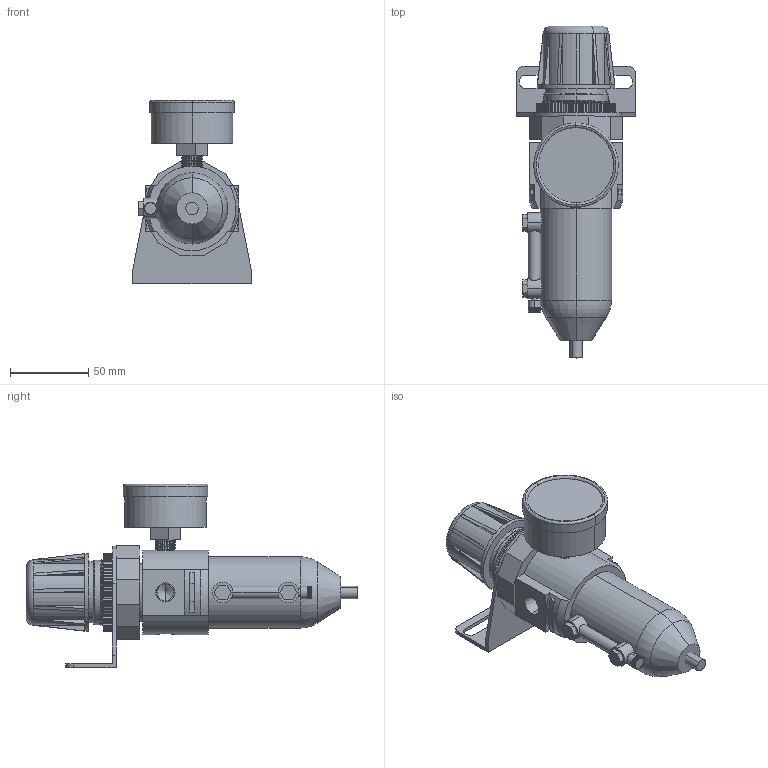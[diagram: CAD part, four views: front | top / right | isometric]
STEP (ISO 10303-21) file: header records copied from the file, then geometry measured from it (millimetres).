
FILE_DESCRIPTION (( 'STEP AP203' ), '1' );
FILE_NAME ('B011W-02#YGB#.STEP', '2016-01-14T18:09:49', ( '' ), ( '' ), 'SwSTEP 2.0', 'SolidWorks 2014', '' );
FILE_SCHEMA (( 'CONFIG_CONTROL_DESIGN' ));
Length unit declared in the file: millimetre
Products named in the file (16): D011W-6; 50-P-AD=1-4PT-2; KWSAR10Y57-1; B011W-1; D011W-5; R010-上半部; D011W-4; R010-4; R010-3; KWSAR10Y57; KWR10X51; 50-P-AD=1-4PT.SLDPRT; D011W-04-刻度計; B011W-02#YGB#; 50-P-AD=1-4PT-1; L606-W-06-5
Assembly tree (16 placements, depth 4):
  B011W-02#YGB#
    B011W-1
    50-P-AD=1-4PT.SLDPRT
      50-P-AD=1-4PT-1
      50-P-AD=1-4PT-2
    L606-W-06-5
    R010-上半部
      R010-3
      R010-4
      KWSAR10Y57
        KWSAR10Y57-1
        KWR10X51
    D011W-04-刻度計
      D011W-5  x2
      D011W-4
      D011W-6
Bounding box: 76 x 212 x 117 mm (x, y, z)
Volume: 425612.9 mm3; surface area: 76774.6 mm2
Topology: 12 solids, 12 shells, 727 faces, 1993 edges, 1301 vertices
Faces by surface type: plane 504, cylinder 187, cone 22, torus 10, bspline 4
Entity records: 27117 total; most frequent: CARTESIAN_POINT 7116, ORIENTED_EDGE 3922, DIRECTION 3776, EDGE_CURVE 1961, LINE 1356, VECTOR 1356, VERTEX_POINT 1285, AXIS2_PLACEMENT_3D 1210
